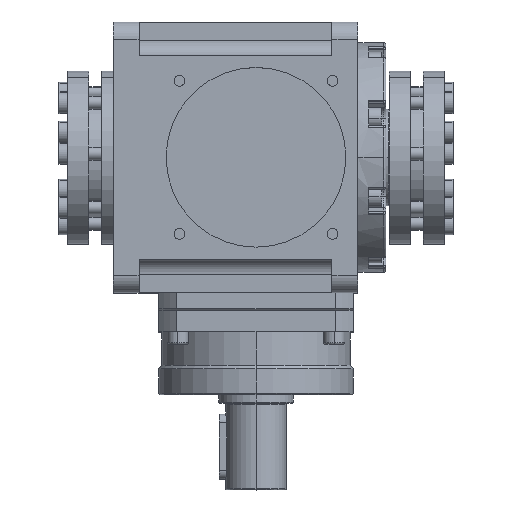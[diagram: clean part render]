
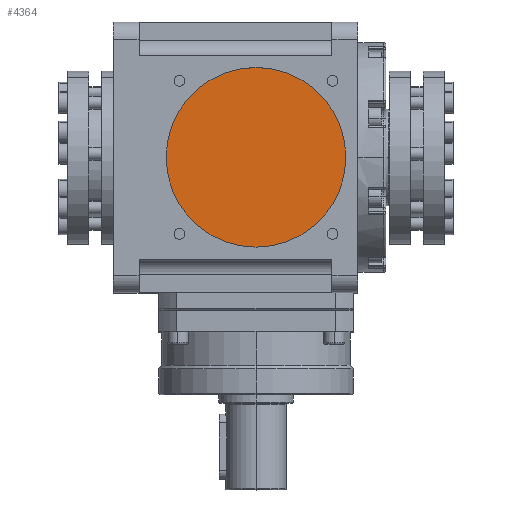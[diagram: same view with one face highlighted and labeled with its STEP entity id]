
A CAD part, top view. The second image highlights one B-rep face of the part: STEP entity #4364.
In plain terms, the highlighted planar face has unit normal (0, 0, 1).
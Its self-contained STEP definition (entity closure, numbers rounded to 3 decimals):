
#584 = CARTESIAN_POINT ( 'NONE',  ( 60.5, 0., 58.5 ) ) ;
#995 = EDGE_LOOP ( 'NONE', ( #17442, #13907 ) ) ;
#1709 = DIRECTION ( 'NONE',  ( -1., 0., 0. ) ) ;
#3192 = PLANE ( 'NONE',  #14632 ) ;
#4269 = CIRCLE ( 'NONE', #14775, 41.5 ) ;
#4336 = DIRECTION ( 'NONE',  ( -1., 0., 0. ) ) ;
#4364 = ADVANCED_FACE ( 'NONE', ( #14567 ), #3192, .T. ) ;
#4827 = DIRECTION ( 'NONE',  ( -1., 0., 0. ) ) ;
#8274 = CARTESIAN_POINT ( 'NONE',  ( 19., 0., 58.5 ) ) ;
#8316 = EDGE_CURVE ( 'NONE', #10244, #15110, #4269, .T. ) ;
#10244 = VERTEX_POINT ( 'NONE', #16855 ) ;
#11809 = CARTESIAN_POINT ( 'NONE',  ( 19., 0., 58.5 ) ) ;
#13604 = AXIS2_PLACEMENT_3D ( 'NONE', #8274, #18335, #4336 ) ;
#13907 = ORIENTED_EDGE ( 'NONE', *, *, #8316, .T. ) ;
#14567 = FACE_OUTER_BOUND ( 'NONE', #995, .T. ) ;
#14632 = AXIS2_PLACEMENT_3D ( 'NONE', #17747, #16339, #1709 ) ;
#14775 = AXIS2_PLACEMENT_3D ( 'NONE', #11809, #16122, #4827 ) ;
#15110 = VERTEX_POINT ( 'NONE', #584 ) ;
#16122 = DIRECTION ( 'NONE',  ( 0., 0., 1. ) ) ;
#16181 = EDGE_CURVE ( 'NONE', #15110, #10244, #17801, .T. ) ;
#16339 = DIRECTION ( 'NONE',  ( 0., 0., 1. ) ) ;
#16855 = CARTESIAN_POINT ( 'NONE',  ( -22.5, 0., 58.5 ) ) ;
#17442 = ORIENTED_EDGE ( 'NONE', *, *, #16181, .T. ) ;
#17747 = CARTESIAN_POINT ( 'NONE',  ( 19., 0., 58.5 ) ) ;
#17801 = CIRCLE ( 'NONE', #13604, 41.5 ) ;
#18335 = DIRECTION ( 'NONE',  ( 0., 0., 1. ) ) ;
